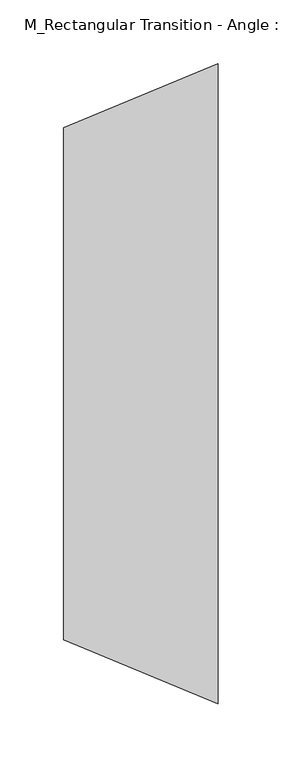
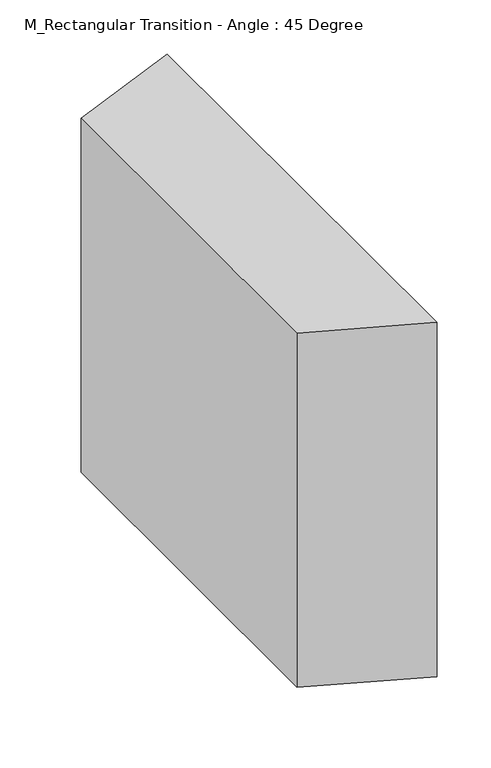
"""IFC4 building model written with IfcOpenShell, lengths in millimetres: duct fitting geometry, M_Rectangular Transition - Angle : 45 Degree."""

from ifc_helpers import new_model, si_unit, frame, origin, place, context, project, spatial, polyline, outline, extrude, source, transform, mapped, element, save


def m_rectangular_transition_angle_45_degree_4ae395e8(model_context):
    return source(origin(), model_context, "Body", "SweptSolid", [
        extrude(outline(polyline([(-200.0, 0.0), (200.0, 0.0), (250.0, -120.7106781), (-250.0, -120.7106781), (-200.0, 0.0)])), frame((0.0, 0.0, -200.0), z_axis=(-2.581337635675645e-12, 0.0, 1.0), x_axis=(0.0, 1.0, 0.0)), (0.0, 0.0, 1.0), 400.0),
        extrude(outline(polyline([(0.0, -200.0), (0.0, 200.0), (120.7106781, 250.0), (120.7106781, -250.0), (0.0, -200.0)])), frame((0.0, 0.0, -200.0), z_axis=(0.0, 0.0, 1.0), x_axis=(1.0, 0.0, 0.0)), (0.0, 0.0, 1.0), 400.0),
        extrude(outline(polyline([(0.0, -200.0), (0.0, 200.0), (120.7106781, 250.0), (120.7106781, -250.0), (0.0, -200.0)])), frame((0.0, 0.0, -200.0), z_axis=(0.0, 0.0, 1.0), x_axis=(1.0, 0.0, 0.0)), (0.0, 0.0, 1.0), 400.0),
    ])


if __name__ == "__main__":
    model = new_model("IFC4")
    model_context = context("Model", 3, world=origin())
    ifc_project = project(units=[si_unit("LENGTHUNIT", "METRE", prefix="MILLI")], contexts=[model_context])
    site = spatial("IfcSite", under=ifc_project)
    building = spatial("IfcBuilding", under=site)
    placement = place(None, origin())
    m_rectangular_transition_angle_45_degree_shape = m_rectangular_transition_angle_45_degree_4ae395e8(model_context)
    element("IfcDuctFitting", 1, ObjectType="M_Rectangular Transition - Angle : 45 Degree", at=placement, inside=building, context=model_context, shape_type="MappedRepresentation", body=[
        mapped(m_rectangular_transition_angle_45_degree_shape, transform((0.0, 0.0, 0.0), x_axis=(1.0, 0.0, 0.0), y_axis=(0.0, 1.0, 0.0), z_axis=(0.0, 0.0, 1.0))),
    ])
    save(model, "model.ifc")
